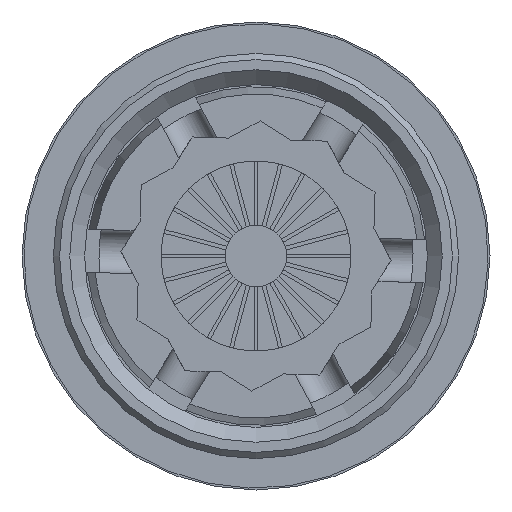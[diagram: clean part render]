
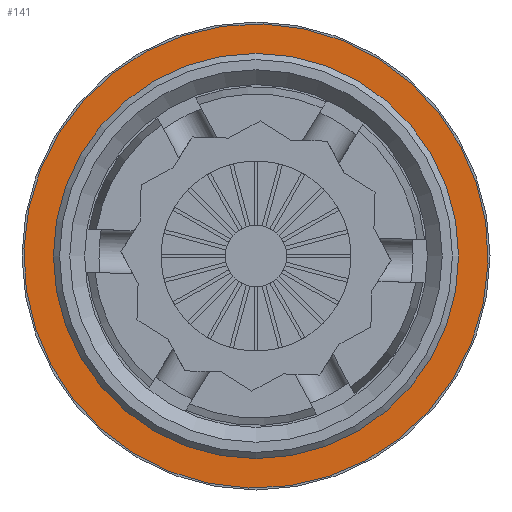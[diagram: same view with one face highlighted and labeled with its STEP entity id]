
A CAD part, front view. The second image highlights one B-rep face of the part: STEP entity #141.
In plain terms, the highlighted planar face has unit normal (0, -1, 0).
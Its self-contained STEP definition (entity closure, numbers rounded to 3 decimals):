
#141=ADVANCED_FACE('',(#1555,#1557),#1559,.F.);
#1555=FACE_BOUND('',#1556,.T.);
#1556=EDGE_LOOP('',(#4591));
#1557=FACE_BOUND('',#1558,.T.);
#1558=EDGE_LOOP('',(#4592,#4593,#4594,#4595,#4596,#4597));
#1559=PLANE('',#1560);
#1560=AXIS2_PLACEMENT_3D('',#1561,#1562,#1563);
#1561=CARTESIAN_POINT('',(0.,-23.038,0.));
#1562=DIRECTION('',(0.,1.,0.));
#1563=DIRECTION('',(-1.,0.,0.031));
#4591=ORIENTED_EDGE('',*,*,#6781,.F.);
#4592=ORIENTED_EDGE('',*,*,#6705,.T.);
#4593=ORIENTED_EDGE('',*,*,#6691,.T.);
#4594=ORIENTED_EDGE('',*,*,#6690,.T.);
#4595=ORIENTED_EDGE('',*,*,#6696,.T.);
#4596=ORIENTED_EDGE('',*,*,#6699,.T.);
#4597=ORIENTED_EDGE('',*,*,#6702,.T.);
#6690=EDGE_CURVE('',#7932,#7976,#8130,.T.);
#6691=EDGE_CURVE('',#8098,#7932,#8131,.T.);
#6696=EDGE_CURVE('',#7976,#8007,#8137,.T.);
#6699=EDGE_CURVE('',#8007,#8038,#8140,.T.);
#6702=EDGE_CURVE('',#8038,#8069,#8143,.T.);
#6705=EDGE_CURVE('',#8069,#8098,#8146,.T.);
#6781=EDGE_CURVE('',#8296,#8296,#8297,.T.);
#7932=VERTEX_POINT('',#10587);
#7976=VERTEX_POINT('',#11120);
#8007=VERTEX_POINT('',#11317);
#8038=VERTEX_POINT('',#11515);
#8069=VERTEX_POINT('',#11710);
#8098=VERTEX_POINT('',#11896);
#8130=CIRCLE('',#12071,13.75);
#8131=CIRCLE('',#12075,13.75);
#8137=CIRCLE('',#12095,13.75);
#8140=CIRCLE('',#12106,13.75);
#8143=CIRCLE('',#12117,13.75);
#8146=CIRCLE('',#12128,13.75);
#8296=VERTEX_POINT('',#12505);
#8297=CIRCLE('',#12506,18.85);
#10587=CARTESIAN_POINT('',(-7.243,-23.038,-11.688));
#11120=CARTESIAN_POINT('',(-13.743,-23.038,0.429));
#11317=CARTESIAN_POINT('',(-6.5,-23.038,12.116));
#11515=CARTESIAN_POINT('',(7.243,-23.038,11.688));
#11710=CARTESIAN_POINT('',(13.743,-23.038,-0.429));
#11896=CARTESIAN_POINT('',(6.5,-23.038,-12.116));
#12071=AXIS2_PLACEMENT_3D('',#12072,#12073,#12074);
#12072=CARTESIAN_POINT('',(0.,-23.038,0.));
#12073=DIRECTION('',(0.,1.,0.));
#12074=DIRECTION('',(-0.527,0.,-0.85));
#12075=AXIS2_PLACEMENT_3D('',#12076,#12077,#12078);
#12076=CARTESIAN_POINT('',(0.,-23.038,0.));
#12077=DIRECTION('',(0.,1.,0.));
#12078=DIRECTION('',(0.473,0.,-0.881));
#12095=AXIS2_PLACEMENT_3D('',#12096,#12097,#12098);
#12096=CARTESIAN_POINT('',(0.,-23.038,0.));
#12097=DIRECTION('',(0.,1.,0.));
#12098=DIRECTION('',(-1.,0.,0.031));
#12106=AXIS2_PLACEMENT_3D('',#12107,#12108,#12109);
#12107=CARTESIAN_POINT('',(0.,-23.038,0.));
#12108=DIRECTION('',(0.,1.,0.));
#12109=DIRECTION('',(-0.473,0.,0.881));
#12117=AXIS2_PLACEMENT_3D('',#12118,#12119,#12120);
#12118=CARTESIAN_POINT('',(0.,-23.038,0.));
#12119=DIRECTION('',(0.,1.,0.));
#12120=DIRECTION('',(0.527,0.,0.85));
#12128=AXIS2_PLACEMENT_3D('',#12129,#12130,#12131);
#12129=CARTESIAN_POINT('',(0.,-23.038,0.));
#12130=DIRECTION('',(0.,1.,0.));
#12131=DIRECTION('',(1.,0.,-0.031));
#12505=CARTESIAN_POINT('',(-18.841,-23.038,0.588));
#12506=AXIS2_PLACEMENT_3D('',#12507,#12508,#12509);
#12507=CARTESIAN_POINT('',(0.,-23.038,0.));
#12508=DIRECTION('',(0.,1.,0.));
#12509=DIRECTION('',(-1.,0.,0.031));
